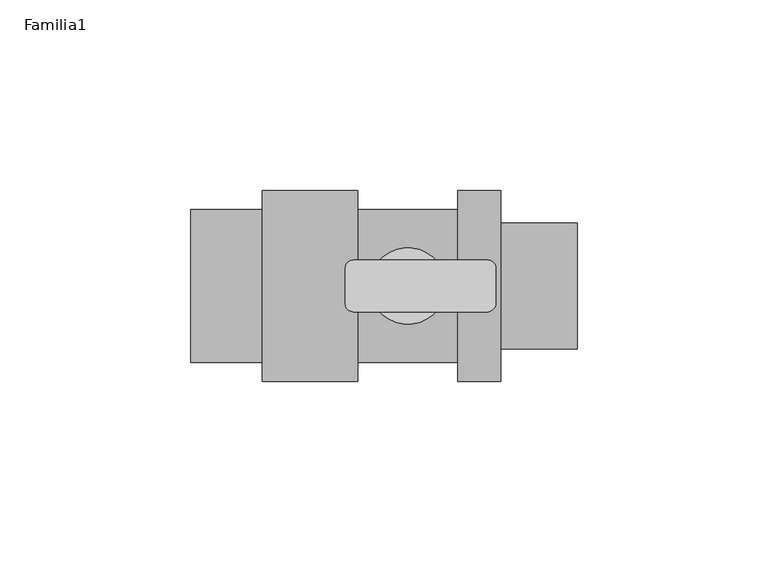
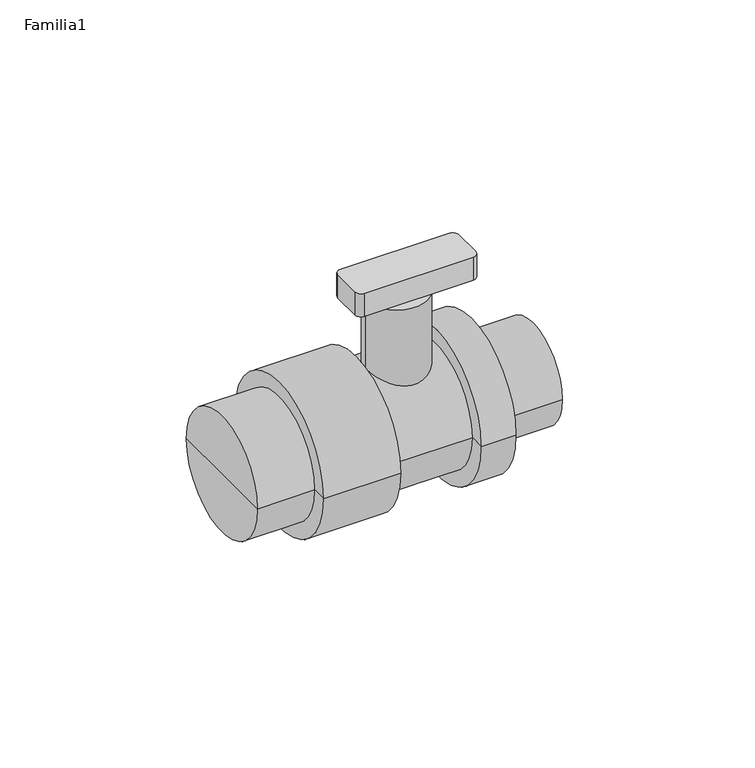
"""IFC4 building model written with IfcOpenShell, lengths in millimetres: pipe fitting geometry, AmancoWavin_Unionesdetubería_AguaPotableZNoUsarMulticonectorTanque : Familia1."""

from ifc_helpers import new_model, si_unit, point, frame, frame_2d, origin, origin_with_axes, origin_2d, place, context, project, spatial, polyline, circle_curve, trimmed, segment, composite_curve, outline, extrude, source, transform, mapped, element, save
from ifc_brep_helpers import plane_surface, cylinder_surface, advanced_brep


def familia1_21bbc39e(model_context):
    return source(origin(), model_context, "Body", "SolidModel", [
        extrude(outline(composite_curve([segment(trimmed(circle_curve(frame_2d((21.0088699, 4.76394)), 2.0), [point((21.0088699, 6.76394))], [point((23.0088699, 4.76394))], False, "CARTESIAN"), True, "CONTINUOUS"), segment(polyline([(23.0088699, 4.76394), (23.0088699, -4.6314147)]), True, "CONTINUOUS"), segment(trimmed(circle_curve(frame_2d((20.8719539, -4.6314147)), 2.136916), [point((23.0088699, -4.6314147))], [point((21.0088699, -6.76394))], False, "CARTESIAN"), True, "CONTINUOUS"), segment(polyline([(21.0088699, -6.76394), (-14.3661301, -6.76394)]), True, "CONTINUOUS"), segment(trimmed(circle_curve(frame_2d((-14.3661301, -4.76394)), 2.0), [point((-14.3661301, -6.76394))], [point((-16.3661301, -4.76394))], False, "CARTESIAN"), True, "CONTINUOUS"), segment(polyline([(-16.3661301, -4.76394), (-16.3661301, 4.76394)]), True, "CONTINUOUS"), segment(trimmed(circle_curve(frame_2d((-14.3661301, 4.76394)), 2.0), [point((-16.3661301, 4.76394))], [point((-14.3661301, 6.76394))], False, "CARTESIAN"), True, "CONTINUOUS"), segment(polyline([(-14.3661301, 6.76394), (21.0088699, 6.76394)]), True, "CONTINUOUS")], self_intersect=False)), frame((0.0, 0.0, 43.3518626), z_axis=(0.0, 0.0, 1.0), x_axis=(1.0, 0.0, 0.0)), (0.0, 0.0, 1.0), 7.9456594),
        extrude(outline(composite_curve([segment(trimmed(circle_curve(origin_2d(), 10.0), [point((-10.0, 0.0))], [point((10.0, 0.0))], False, "CARTESIAN"), True, "CONTINUOUS"), segment(trimmed(circle_curve(origin_2d(), 10.0), [point((10.0, 0.0))], [point((-10.0, 0.0))], False, "CARTESIAN"), True, "CONTINUOUS")], self_intersect=False)), origin_with_axes(), (0.0, 0.0, 1.0), 43.3518626),
        advanced_brep(
        [(-56.875, 0.0, 0.0), (-56.875, 20.0, 0.0), (-56.875, -20.0, 0.0), (44.375, -16.4745427, 0.0), (44.375, 16.4745427, 0.0), (44.375, 0.0, 0.0), (24.375, -16.4745427, 0.0), (24.375, 16.4745427, 0.0), (24.375, -25.0, 0.0), (24.375, 25.0, 0.0), (13.125, -25.0, 0.0), (13.125, 25.0, 0.0), (13.125, -20.0, 0.0), (13.125, 20.0, 0.0), (-13.125, -20.0, 0.0), (-13.125, 20.0, 0.0), (-13.125, -25.0, 0.0), (-13.125, 25.0, 0.0), (-38.125, -25.0, 0.0), (-38.125, 25.0, 0.0), (-38.125, -20.0, 0.0), (-38.125, 20.0, 0.0)],
        [
            (0, 1),
            (1, 2, circle_curve(frame((-56.875, 0.0, 0.0), z_axis=(-1.0, 0.0, 0.0), x_axis=(0.0, 1.0, 0.0)), 20.0)),
            (2, 0),
            (2, 1, circle_curve(frame((-56.875, 0.0, 0.0), z_axis=(-1.0, 0.0, 0.0), x_axis=(0.0, 1.0, 0.0)), 20.0)),
            (3, 4, circle_curve(frame((44.375, 0.0, 0.0), z_axis=(1.0, 0.0, 0.0), x_axis=(0.0, 1.0, 0.0)), 16.4745427)),
            (4, 5),
            (5, 3),
            (4, 3, circle_curve(frame((44.375, 0.0, 0.0), z_axis=(1.0, 0.0, 0.0), x_axis=(0.0, 1.0, 0.0)), 16.4745427)),
            (6, 7, circle_curve(frame((24.375, 0.0, 0.0), z_axis=(1.0, 0.0, 0.0), x_axis=(0.0, 1.0, 0.0)), 16.4745427)),
            (7, 4),
            (3, 6),
            (7, 6, circle_curve(frame((24.375, 0.0, 0.0), z_axis=(1.0, 0.0, 0.0), x_axis=(0.0, 1.0, 0.0)), 16.4745427)),
            (8, 9, circle_curve(frame((24.375, 0.0, 0.0), z_axis=(1.0, 0.0, 0.0), x_axis=(0.0, 1.0, 0.0)), 25.0)),
            (9, 7),
            (6, 8),
            (9, 8, circle_curve(frame((24.375, 0.0, 0.0), z_axis=(1.0, 0.0, 0.0), x_axis=(0.0, 1.0, 0.0)), 25.0)),
            (10, 11, circle_curve(frame((13.125, 0.0, 0.0), z_axis=(1.0, 0.0, 0.0), x_axis=(0.0, 1.0, 0.0)), 25.0)),
            (11, 9),
            (8, 10),
            (11, 10, circle_curve(frame((13.125, 0.0, 0.0), z_axis=(1.0, 0.0, 0.0), x_axis=(0.0, 1.0, 0.0)), 25.0)),
            (12, 13, circle_curve(frame((13.125, 0.0, 0.0), z_axis=(1.0, 0.0, 0.0), x_axis=(0.0, 1.0, 0.0)), 20.0)),
            (13, 11),
            (10, 12),
            (13, 12, circle_curve(frame((13.125, 0.0, 0.0), z_axis=(1.0, 0.0, 0.0), x_axis=(0.0, 1.0, 0.0)), 20.0)),
            (14, 15, circle_curve(frame((-13.125, 0.0, 0.0), z_axis=(1.0, 0.0, 0.0), x_axis=(0.0, 1.0, 0.0)), 20.0)),
            (15, 13),
            (12, 14),
            (15, 14, circle_curve(frame((-13.125, 0.0, 0.0), z_axis=(1.0, 0.0, 0.0), x_axis=(0.0, 1.0, 0.0)), 20.0)),
            (16, 17, circle_curve(frame((-13.125, 0.0, 0.0), z_axis=(1.0, 0.0, 0.0), x_axis=(0.0, 1.0, 0.0)), 25.0)),
            (17, 15),
            (14, 16),
            (17, 16, circle_curve(frame((-13.125, 0.0, 0.0), z_axis=(1.0, 0.0, 0.0), x_axis=(0.0, 1.0, 0.0)), 25.0)),
            (18, 19, circle_curve(frame((-38.125, 0.0, 0.0), z_axis=(1.0, 0.0, 0.0), x_axis=(0.0, 1.0, 0.0)), 25.0)),
            (19, 17),
            (16, 18),
            (19, 18, circle_curve(frame((-38.125, 0.0, 0.0), z_axis=(1.0, 0.0, 0.0), x_axis=(0.0, 1.0, 0.0)), 25.0)),
            (20, 21, circle_curve(frame((-38.125, 0.0, 0.0), z_axis=(1.0, 0.0, 0.0), x_axis=(0.0, 1.0, 0.0)), 20.0)),
            (21, 19),
            (18, 20),
            (21, 20, circle_curve(frame((-38.125, 0.0, 0.0), z_axis=(1.0, 0.0, 0.0), x_axis=(0.0, 1.0, 0.0)), 20.0)),
            (1, 21),
            (20, 2),
        ],
        [
            plane_surface(frame((-56.875, 0.0, 0.0), z_axis=(-1.0, 0.0, 0.0), x_axis=(0.0, 1.0, 0.0))),
            plane_surface(frame((44.375, 0.0, 0.0), z_axis=(1.0, 0.0, 0.0), x_axis=(0.0, 1.0, 0.0))),
            cylinder_surface(frame((-56.875, 0.0, 0.0), z_axis=(-1.0, 0.0, 0.0), x_axis=(0.0, 1.0, 0.0)), 16.4745427),
            plane_surface(frame((24.375, 0.0, 0.0), z_axis=(1.0, 0.0, 0.0), x_axis=(0.0, 1.0, 0.0))),
            cylinder_surface(frame((-56.875, 0.0, 0.0), z_axis=(-1.0, 0.0, 0.0), x_axis=(0.0, 1.0, 0.0)), 25.0),
            plane_surface(frame((13.125, 0.0, 0.0), z_axis=(-1.0, 0.0, 0.0), x_axis=(0.0, 1.0, 0.0))),
            cylinder_surface(frame((-56.875, 0.0, 0.0), z_axis=(-1.0, 0.0, 0.0), x_axis=(0.0, 1.0, 0.0)), 20.0),
            plane_surface(frame((-13.125, 0.0, 0.0), z_axis=(1.0, 0.0, 0.0), x_axis=(0.0, 1.0, 0.0))),
            plane_surface(frame((-38.125, 0.0, 0.0), z_axis=(-1.0, 0.0, 0.0), x_axis=(0.0, 1.0, 0.0))),
        ],
        [
            (0, [[1, 2, 3]]),
            (0, [[-3, 4, -1]]),
            (1, [[5, 6, 7]]),
            (1, [[8, -7, -6]]),
            (2, [[9, 10, -5, 11]]),
            (2, [[12, -11, -8, -10]]),
            (3, [[13, 14, -9, 15]]),
            (3, [[16, -15, -12, -14]]),
            (4, [[17, 18, -13, 19]]),
            (4, [[20, -19, -16, -18]]),
            (5, [[21, 22, -17, 23]]),
            (5, [[24, -23, -20, -22]]),
            (6, [[25, 26, -21, 27]]),
            (6, [[28, -27, -24, -26]]),
            (7, [[29, 30, -25, 31]]),
            (7, [[32, -31, -28, -30]]),
            (4, [[33, 34, -29, 35]]),
            (4, [[36, -35, -32, -34]]),
            (8, [[37, 38, -33, 39]]),
            (8, [[40, -39, -36, -38]]),
            (6, [[-2, 41, -37, 42]]),
            (6, [[-4, -42, -40, -41]]),
        ],
    ),
    ])


if __name__ == "__main__":
    model = new_model("IFC4")
    model_context = context("Model", 3, world=origin())
    ifc_project = project(units=[si_unit("LENGTHUNIT", "METRE", prefix="MILLI")], contexts=[model_context])
    site = spatial("IfcSite", under=ifc_project)
    building = spatial("IfcBuilding", under=site)
    placement = place(None, origin())
    familia1_shape = familia1_21bbc39e(model_context)
    element("IfcPipeFitting", 1, ObjectType="AmancoWavin_Unionesdetubería_AguaPotableZNoUsarMulticonectorTanque : Familia1", at=placement, inside=building, context=model_context, shape_type="MappedRepresentation", body=[
        mapped(familia1_shape, transform((0.0, 0.0, 0.0), x_axis=(1.0, 0.0, 0.0), y_axis=(0.0, 1.0, 0.0), z_axis=(0.0, 0.0, 1.0))),
    ])
    save(model, "model.ifc")
